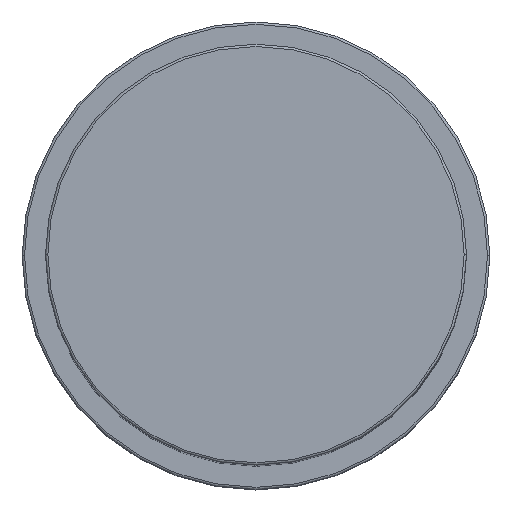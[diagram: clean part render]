
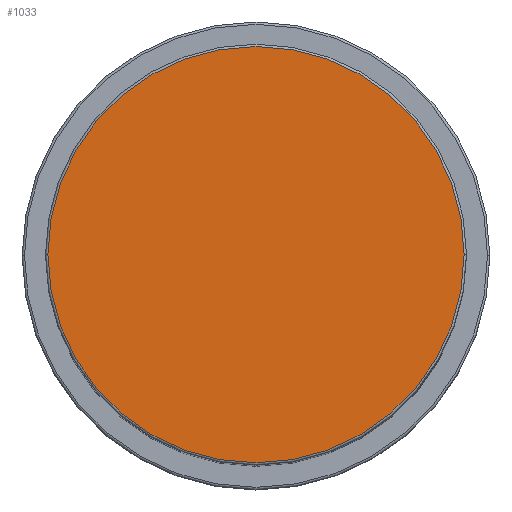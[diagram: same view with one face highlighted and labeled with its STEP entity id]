
A CAD part, top view. The second image highlights one B-rep face of the part: STEP entity #1033.
In plain terms, the highlighted planar face has unit normal (0, 0, 1).
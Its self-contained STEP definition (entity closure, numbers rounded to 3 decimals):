
#25 = VERTEX_POINT ( 'NONE', #767 ) ;
#191 = AXIS2_PLACEMENT_3D ( 'NONE', #1634, #1640, #985 ) ;
#231 = VERTEX_POINT ( 'NONE', #1235 ) ;
#294 = EDGE_CURVE ( 'NONE', #25, #231, #616, .T. ) ;
#519 = DIRECTION ( 'NONE',  ( 1., 0., 0. ) ) ;
#522 = DIRECTION ( 'NONE',  ( 1., 0., 0. ) ) ;
#616 = CIRCLE ( 'NONE', #191, 44.5 ) ;
#743 = AXIS2_PLACEMENT_3D ( 'NONE', #1559, #1166, #519 ) ;
#759 = PLANE ( 'NONE',  #743 ) ;
#766 = CARTESIAN_POINT ( 'NONE',  ( 0., 0., 164. ) ) ;
#767 = CARTESIAN_POINT ( 'NONE',  ( 44.5, 0., 164. ) ) ;
#779 = DIRECTION ( 'NONE',  ( 0., 0., 1. ) ) ;
#985 = DIRECTION ( 'NONE',  ( 1., 0., 0. ) ) ;
#1033 = ADVANCED_FACE ( 'NONE', ( #1116 ), #759, .T. ) ;
#1042 = EDGE_CURVE ( 'NONE', #231, #25, #1563, .T. ) ;
#1116 = FACE_OUTER_BOUND ( 'NONE', #1387, .T. ) ;
#1166 = DIRECTION ( 'NONE',  ( 0., 0., 1. ) ) ;
#1188 = ORIENTED_EDGE ( 'NONE', *, *, #294, .T. ) ;
#1235 = CARTESIAN_POINT ( 'NONE',  ( -44.5, 0., 164. ) ) ;
#1387 = EDGE_LOOP ( 'NONE', ( #1188, #1394 ) ) ;
#1394 = ORIENTED_EDGE ( 'NONE', *, *, #1042, .T. ) ;
#1559 = CARTESIAN_POINT ( 'NONE',  ( 0., 0., 164. ) ) ;
#1563 = CIRCLE ( 'NONE', #1608, 44.5 ) ;
#1608 = AXIS2_PLACEMENT_3D ( 'NONE', #766, #779, #522 ) ;
#1634 = CARTESIAN_POINT ( 'NONE',  ( 0., 0., 164. ) ) ;
#1640 = DIRECTION ( 'NONE',  ( 0., 0., 1. ) ) ;
